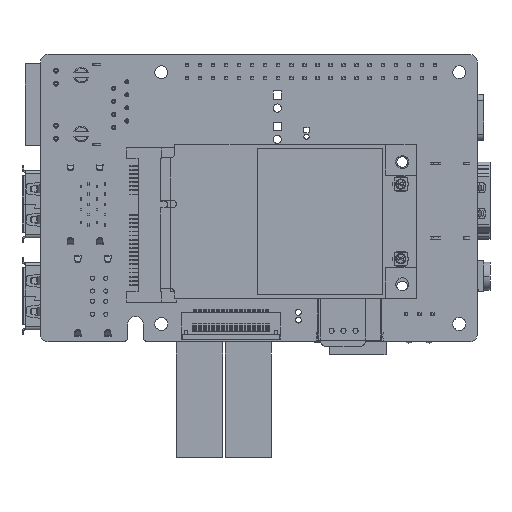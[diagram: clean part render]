
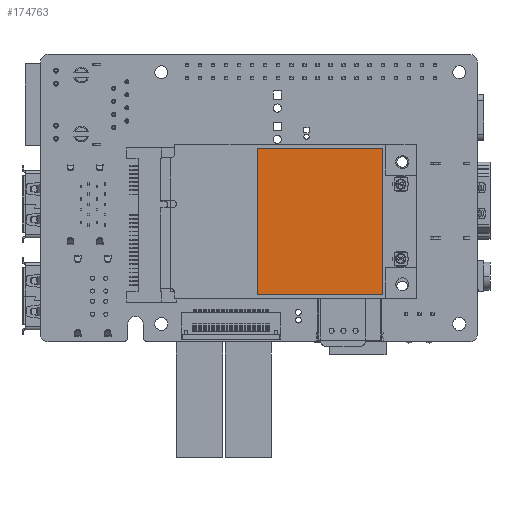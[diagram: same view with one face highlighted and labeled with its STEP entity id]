
A CAD part, front view. The second image highlights one B-rep face of the part: STEP entity #174763.
In plain terms, the highlighted planar face has unit normal (0, -1, 0).
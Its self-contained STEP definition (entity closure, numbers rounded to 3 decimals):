
#23183 = VECTOR ( 'NONE', #93817, 1000. ) ;
#30318 = DIRECTION ( 'NONE',  ( 0., 0., -1. ) ) ;
#38105 = CARTESIAN_POINT ( 'NONE',  ( -41.022, 5.607, -18.776 ) ) ;
#41405 = VECTOR ( 'NONE', #70807, 1000. ) ;
#49056 = DIRECTION ( 'NONE',  ( 0., -1., 0. ) ) ;
#59146 = AXIS2_PLACEMENT_3D ( 'NONE', #128173, #49056, #107002 ) ;
#67607 = DIRECTION ( 'NONE',  ( -1., 0., 0. ) ) ;
#70807 = DIRECTION ( 'NONE',  ( 0., 0., 1. ) ) ;
#71301 = LINE ( 'NONE', #351068, #356118 ) ;
#93817 = DIRECTION ( 'NONE',  ( 1., 0., 0. ) ) ;
#94566 = PLANE ( 'NONE',  #59146 ) ;
#98804 = EDGE_CURVE ( 'NONE', #202345, #223099, #238700, .T. ) ;
#107002 = DIRECTION ( 'NONE',  ( -1., 0., 0. ) ) ;
#120082 = CARTESIAN_POINT ( 'NONE',  ( -41.022, 5.607, -18.776 ) ) ;
#128173 = CARTESIAN_POINT ( 'NONE',  ( -59.355, 5.607, -4.879 ) ) ;
#138405 = EDGE_CURVE ( 'NONE', #334741, #184454, #254181, .T. ) ;
#159055 = EDGE_LOOP ( 'NONE', ( #192594, #281814, #277830, #218101 ) ) ;
#164166 = CARTESIAN_POINT ( 'NONE',  ( -65.522, 5.607, -18.776 ) ) ;
#174763 = ADVANCED_FACE ( 'NONE', ( #190908 ), #94566, .T. ) ;
#184454 = VERTEX_POINT ( 'NONE', #164166 ) ;
#190304 = EDGE_CURVE ( 'NONE', #223099, #334741, #71301, .T. ) ;
#190908 = FACE_OUTER_BOUND ( 'NONE', #159055, .T. ) ;
#192594 = ORIENTED_EDGE ( 'NONE', *, *, #98804, .T. ) ;
#199664 = CARTESIAN_POINT ( 'NONE',  ( -41.022, 5.607, 9.724 ) ) ;
#202345 = VERTEX_POINT ( 'NONE', #38105 ) ;
#208529 = VECTOR ( 'NONE', #30318, 1000. ) ;
#218101 = ORIENTED_EDGE ( 'NONE', *, *, #322140, .T. ) ;
#223099 = VERTEX_POINT ( 'NONE', #199664 ) ;
#231270 = CARTESIAN_POINT ( 'NONE',  ( -65.522, 5.607, 9.724 ) ) ;
#238700 = LINE ( 'NONE', #326278, #41405 ) ;
#254181 = LINE ( 'NONE', #282242, #208529 ) ;
#277830 = ORIENTED_EDGE ( 'NONE', *, *, #138405, .T. ) ;
#281814 = ORIENTED_EDGE ( 'NONE', *, *, #190304, .T. ) ;
#282242 = CARTESIAN_POINT ( 'NONE',  ( -65.522, 5.607, -18.776 ) ) ;
#322140 = EDGE_CURVE ( 'NONE', #184454, #202345, #323076, .T. ) ;
#323076 = LINE ( 'NONE', #120082, #23183 ) ;
#326278 = CARTESIAN_POINT ( 'NONE',  ( -41.022, 5.607, -18.776 ) ) ;
#334741 = VERTEX_POINT ( 'NONE', #231270 ) ;
#351068 = CARTESIAN_POINT ( 'NONE',  ( -41.022, 5.607, 9.724 ) ) ;
#356118 = VECTOR ( 'NONE', #67607, 1000. ) ;
